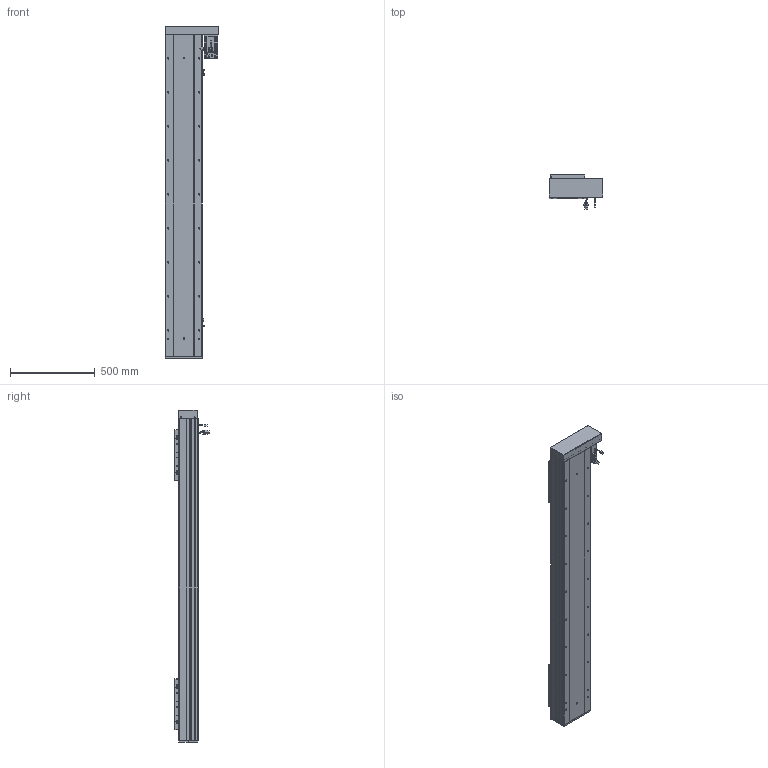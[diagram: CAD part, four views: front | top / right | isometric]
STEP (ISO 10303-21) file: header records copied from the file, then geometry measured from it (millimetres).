
FILE_DESCRIPTION (( 'STEP AP203' ), '1' );
FILE_NAME ('RY220F-L2525-800-RK-邧嶺.SLDASM_1450.step', '2022-08-06T08:19:31', ( '' ), ( '' ), 'SwSTEP 2.0', 'SolidWorks 2016', '' );
FILE_SCHEMA (( 'CONFIG_CONTROL_DESIGN' ));
Length unit declared in the file: millimetre
Products named in the file (15): RY220酘衵殏萇儂欶; 怢湛750W_ECMA-CX0807ES; RY220F-祥凄詩湍-蛌殏-800_1450; 覜茼ん672; RY220左右折电机安装板; 滅袉蝶18-24; RY220F蛌殏菁釱-800-邧嶺_1450; 侐源滅袉蝶; RY220F臏賑釱25-32佪裝; RY220F-672覜茼んえ; RY220F-蛌殏奻裔啣-800_1450; RY220F-L2525-800-RK-邧嶺.SLDASM_1450; RY220F-詩湍揤踡輸; RY220F-滅鳥奻裔; RY220F綴裔啣
Assembly tree (24 placements, depth 2):
  RY220F-L2525-800-RK-邧嶺.SLDASM_1450
    RY220F蛌殏菁釱-800-邧嶺_1450
    RY220F-蛌殏奻裔啣-800_1450  x2
    怢湛750W_ECMA-CX0807ES
    RY220F臏賑釱25-32佪裝  x2
    RY220F-滅鳥奻裔  x2
    滅袉蝶18-24  x3
    RY220F綴裔啣
    RY220F-祥凄詩湍-蛌殏-800_1450
    RY220F-詩湍揤踡輸  x2
    覜茼ん672  x3
    RY220F-672覜茼んえ  x2
    RY220左右折电机安装板
    RY220酘衵殏萇儂欶
    侐源滅袉蝶  x2
Bounding box: 317.5 x 205.27 x 1953 mm (x, y, z)
Volume: 17596983.6 mm3; surface area: 4654601.3 mm2
Topology: 25 solids, 25 shells, 2828 faces, 7684 edges, 4742 vertices
Faces by surface type: cylinder 1282, plane 1044, cone 431, bspline 45, sphere 16, torus 10
Entity records: 70336 total; most frequent: CARTESIAN_POINT 18915, ORIENTED_EDGE 10366, DIRECTION 10148, EDGE_CURVE 5183, AXIS2_PLACEMENT_3D 3626, VERTEX_POINT 3358, VECTOR 2896, LINE 2896
